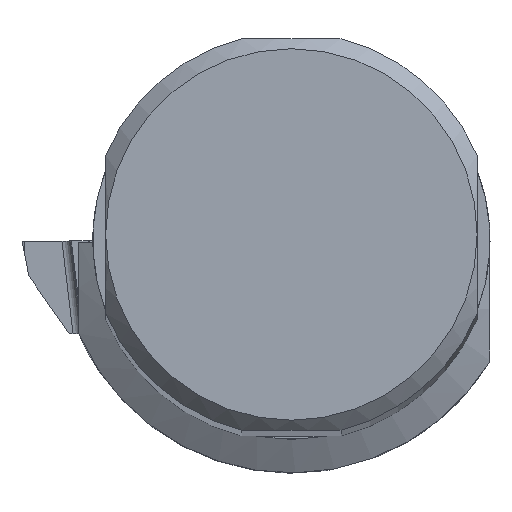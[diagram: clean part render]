
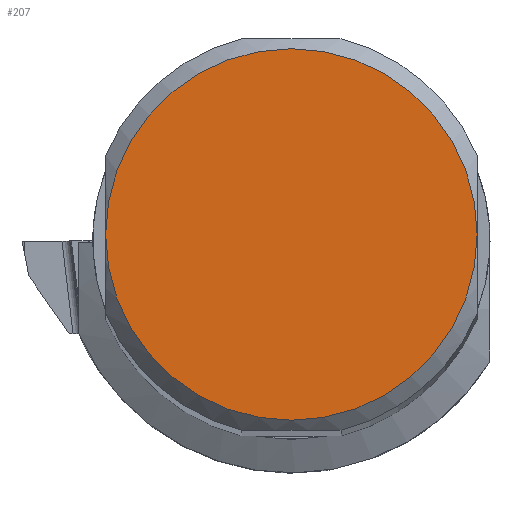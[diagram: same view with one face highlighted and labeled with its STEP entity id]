
A CAD part, top view. The second image highlights one B-rep face of the part: STEP entity #207.
In plain terms, the highlighted planar face has unit normal (0, 0, 1).
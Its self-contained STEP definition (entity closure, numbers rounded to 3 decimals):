
#97=PLANE('',#2884);
#207=ADVANCED_FACE('',(#415),#97,.T.);
#415=FACE_OUTER_BOUND('',#553,.T.);
#553=EDGE_LOOP('',(#781,#782));
#781=ORIENTED_EDGE('',*,*,#1823,.T.);
#782=ORIENTED_EDGE('',*,*,#1806,.T.);
#1528=VERTEX_POINT('',#4083);
#1532=VERTEX_POINT('',#4097);
#1806=EDGE_CURVE('',#1528,#1532,#2210,.T.);
#1823=EDGE_CURVE('',#1532,#1528,#2215,.T.);
#2210=CIRCLE('',#2871,17.515);
#2215=CIRCLE('',#2883,17.515);
#2871=AXIS2_PLACEMENT_3D('',#4098,#3221,#3222);
#2883=AXIS2_PLACEMENT_3D('',#4130,#3257,#3258);
#2884=AXIS2_PLACEMENT_3D('',#4131,#3259,#3260);
#3221=DIRECTION('',(0.,0.,1.));
#3222=DIRECTION('',(0.,-1.,0.));
#3257=DIRECTION('',(0.,0.,1.));
#3258=DIRECTION('',(0.,-1.,0.));
#3259=DIRECTION('',(0.,0.,1.));
#3260=DIRECTION('',(0.,-1.,0.));
#4083=CARTESIAN_POINT('',(17.515,0.,0.));
#4097=CARTESIAN_POINT('',(-17.515,0.,0.));
#4098=CARTESIAN_POINT('',(0.,0.,0.));
#4130=CARTESIAN_POINT('',(0.,0.,0.));
#4131=CARTESIAN_POINT('',(0.,0.,0.));
